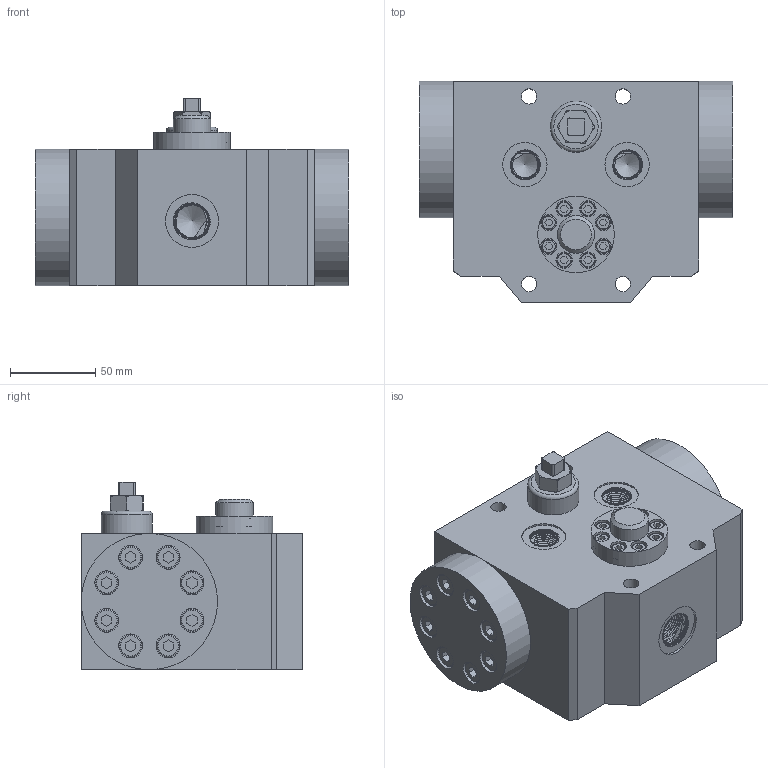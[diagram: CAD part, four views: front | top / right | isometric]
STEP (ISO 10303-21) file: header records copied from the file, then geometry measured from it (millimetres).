
FILE_DESCRIPTION(/* description */ (''),/* implementation_level */ '2;1');
FILE_NAME(/* name */ '13-2.prt.stp',/* time_stamp */ '2023-05-03T14:25:35+08:00',/* author */ (''),/* organization */ (''),/* preprocessor_version */ 'ST-DEVELOPER v16.7',/* originating_system */ 'SIEMENS PLM Software NX 12.0',/* authorisation */ '');
FILE_SCHEMA (('AUTOMOTIVE_DESIGN { 1 0 10303 214 3 1 1 1 }'));
Products named in the file (1): 13-2
Bounding box: 184 x 130 x 110 mm (x, y, z)
Volume: 1569706.2 mm3; surface area: 192104.1 mm2
Topology: 32 solids, 32 shells, 700 faces, 1712 edges, 1128 vertices
Faces by surface type: plane 404, cylinder 194, cone 53, torus 37, bspline 12
Full cylindrical faces by diameter (mm): 4.2 x8, 5 x8, 5.5 x8, 6.8 x16, 8 x16, 8.5 x8, 9 x20, 9.5 x8, 13 x16, 14 x16, 22 x2, 26 x2, 30 x1, 31 x2, 45 x1, 80 x2
Entity records: 41546 total; most frequent: CARTESIAN_POINT 25964, DIRECTION 3162, ORIENTED_EDGE 2724, EDGE_CURVE 1362, AXIS2_PLACEMENT_3D 1183, EDGE_LOOP 1094, VERTEX_POINT 1042, LINE 796
